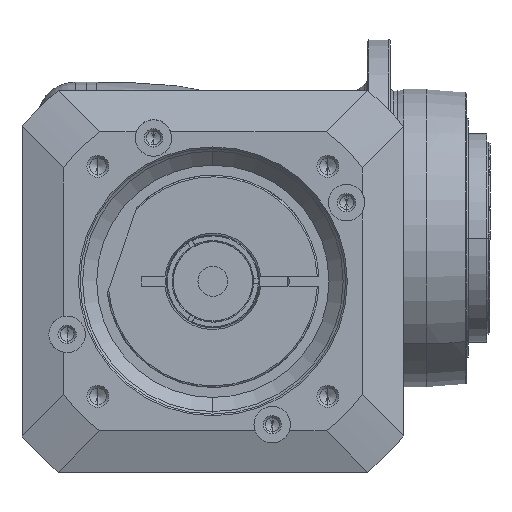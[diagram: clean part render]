
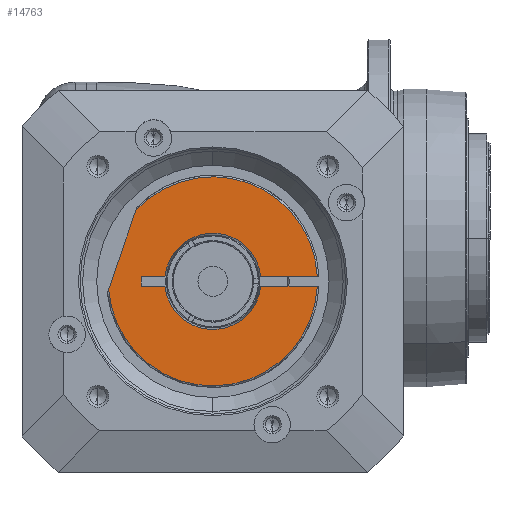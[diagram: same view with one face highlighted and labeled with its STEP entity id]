
A CAD part, front view. The second image highlights one B-rep face of the part: STEP entity #14763.
In plain terms, the highlighted planar face has unit normal (0, -1, 0) as drawn and (-1, 0, 0) by its records, which use the part's own axes.
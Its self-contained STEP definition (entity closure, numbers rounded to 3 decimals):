
#14200=DIRECTION('',(0.,0.946,0.326));
#14201=VECTOR('',#14200,25.063);
#14202=CARTESIAN_POINT('',(-13.,-21.258,23.246));
#14203=LINE('',#14202,#14201);
#14204=DIRECTION('',(0.,0.,1.));
#14205=VECTOR('',#14204,17.042);
#14206=CARTESIAN_POINT('',(-13.,-1.5,-31.464));
#14207=LINE('',#14206,#14205);
#14208=DIRECTION('',(0.,0.,1.));
#14209=VECTOR('',#14208,7.078);
#14210=CARTESIAN_POINT('',(-13.,-1.5,14.422));
#14211=LINE('',#14210,#14209);
#14212=DIRECTION('',(0.,-1.,0.));
#14213=VECTOR('',#14212,3.);
#14214=CARTESIAN_POINT('',(-13.,1.5,21.5));
#14215=LINE('',#14214,#14213);
#14216=DIRECTION('',(0.,0.,1.));
#14217=VECTOR('',#14216,7.078);
#14218=CARTESIAN_POINT('',(-13.,1.5,14.422));
#14219=LINE('',#14218,#14217);
#14220=DIRECTION('',(0.,0.,1.));
#14221=VECTOR('',#14220,17.042);
#14222=CARTESIAN_POINT('',(-13.,1.5,-31.464));
#14223=LINE('',#14222,#14221);
#14238=CARTESIAN_POINT('',(-13.,0.,0.));
#14239=DIRECTION('',(-1.,0.,0.));
#14240=DIRECTION('',(0.,0.077,0.997));
#14241=AXIS2_PLACEMENT_3D('',#14238,#14239,#14240);
#14284=CARTESIAN_POINT('',(-13.,0.,0.));
#14285=DIRECTION('',(-1.,0.,0.));
#14286=DIRECTION('',(0.,-0.048,-0.999));
#14287=AXIS2_PLACEMENT_3D('',#14284,#14285,#14286);
#14311=CARTESIAN_POINT('',(-13.,0.,0.));
#14312=DIRECTION('',(1.,0.,0.));
#14313=DIRECTION('',(0.,-0.103,0.995));
#14314=AXIS2_PLACEMENT_3D('',#14311,#14312,#14313);
#14323=CARTESIAN_POINT('',(-13.,0.,0.));
#14324=DIRECTION('',(1.,0.,0.));
#14325=DIRECTION('',(0.,0.103,-0.995));
#14326=AXIS2_PLACEMENT_3D('',#14323,#14324,#14325);
#14646=CARTESIAN_POINT('',(-13.,-1.5,-31.464));
#14647=CARTESIAN_POINT('',(-13.,-1.5,-14.422));
#14648=VERTEX_POINT('',#14646);
#14649=VERTEX_POINT('',#14647);
#14650=CARTESIAN_POINT('',(-13.,1.5,-31.464));
#14651=CARTESIAN_POINT('',(-13.,1.5,-14.422));
#14652=VERTEX_POINT('',#14650);
#14653=VERTEX_POINT('',#14651);
#14696=CARTESIAN_POINT('',(-13.,1.5,21.5));
#14697=CARTESIAN_POINT('',(-13.,-1.5,21.5));
#14698=VERTEX_POINT('',#14696);
#14699=VERTEX_POINT('',#14697);
#14700=CARTESIAN_POINT('',(-13.,-1.5,14.422));
#14701=VERTEX_POINT('',#14700);
#14702=CARTESIAN_POINT('',(-13.,1.5,14.422));
#14703=VERTEX_POINT('',#14702);
#14720=CARTESIAN_POINT('',(-13.,-21.258,23.246));
#14721=CARTESIAN_POINT('',(-13.,2.44,31.405));
#14722=VERTEX_POINT('',#14720);
#14723=VERTEX_POINT('',#14721);
#14736=CARTESIAN_POINT('',(-13.,0.,0.));
#14737=DIRECTION('',(1.,0.,0.));
#14738=DIRECTION('',(0.,-1.,0.));
#14739=AXIS2_PLACEMENT_3D('',#14736,#14737,#14738);
#14740=PLANE('',#14739);
#14742=ORIENTED_EDGE('',*,*,#14741,.F.);
#14744=ORIENTED_EDGE('',*,*,#14743,.F.);
#14746=ORIENTED_EDGE('',*,*,#14745,.T.);
#14748=ORIENTED_EDGE('',*,*,#14747,.F.);
#14750=ORIENTED_EDGE('',*,*,#14749,.T.);
#14752=ORIENTED_EDGE('',*,*,#14751,.F.);
#14754=ORIENTED_EDGE('',*,*,#14753,.F.);
#14756=ORIENTED_EDGE('',*,*,#14755,.F.);
#14758=ORIENTED_EDGE('',*,*,#14757,.F.);
#14760=ORIENTED_EDGE('',*,*,#14759,.F.);
#14761=EDGE_LOOP('',(#14742,#14744,#14746,#14748,#14750,#14752,#14754,#14756,
#14758,#14760));
#14762=FACE_OUTER_BOUND('',#14761,.F.);
#14763=ADVANCED_FACE('',(#14762),#14740,.F.);
#14242=CIRCLE('',#14241,31.5);
#14288=CIRCLE('',#14287,31.5);
#14315=CIRCLE('',#14314,14.5);
#14327=CIRCLE('',#14326,14.5);
#14741=EDGE_CURVE('',#14722,#14723,#14203,.T.);
#14743=EDGE_CURVE('',#14648,#14722,#14288,.T.);
#14745=EDGE_CURVE('',#14648,#14649,#14207,.T.);
#14747=EDGE_CURVE('',#14701,#14649,#14315,.T.);
#14749=EDGE_CURVE('',#14701,#14699,#14211,.T.);
#14751=EDGE_CURVE('',#14698,#14699,#14215,.T.);
#14753=EDGE_CURVE('',#14703,#14698,#14219,.T.);
#14755=EDGE_CURVE('',#14653,#14703,#14327,.T.);
#14757=EDGE_CURVE('',#14652,#14653,#14223,.T.);
#14759=EDGE_CURVE('',#14723,#14652,#14242,.T.);
